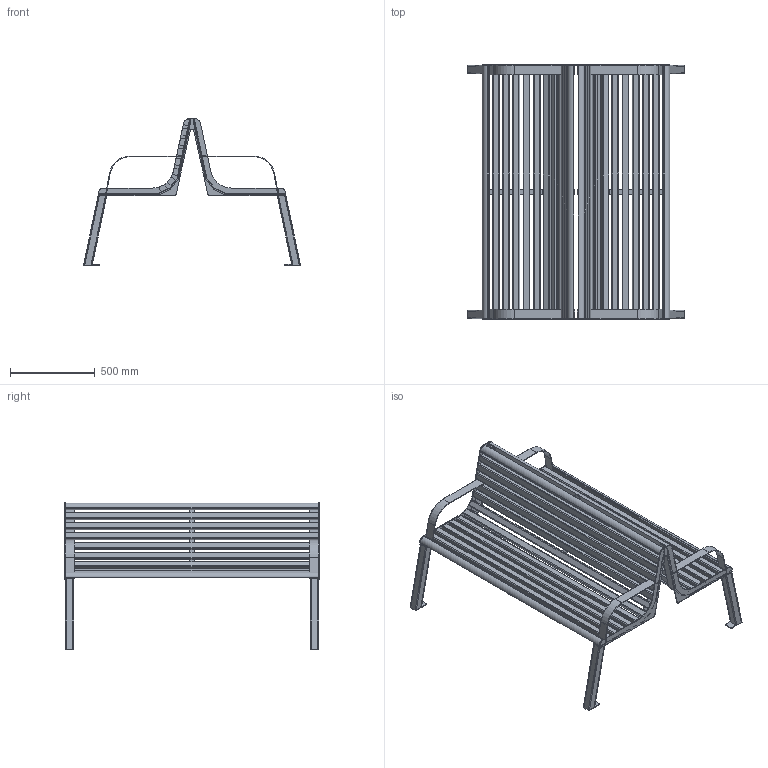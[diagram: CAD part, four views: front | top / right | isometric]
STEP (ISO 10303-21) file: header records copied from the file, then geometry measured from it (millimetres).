
FILE_DESCRIPTION(/* description */ (''),/* implementation_level */ '2;1');
FILE_NAME(/* name */ 'LVI293.00a SIMPLE.step',/* time_stamp */ '2023-10-16T09:47:25+02:00',/* author */ (''),/* organization */ (''),/* preprocessor_version */ 'ST-DEVELOPER v20',/* originating_system */ 'Autodesk Translation Framework v12.14.0.127',/* authorisation */ '');
FILE_SCHEMA (('AUTOMOTIVE_DESIGN { 1 0 10303 214 3 1 1 }'));
Length unit declared in the file: millimetre
Products named in the file (19): LVI293.00a; LVI293.01.01; LVI293.01.01.03; LVI293.01.01.05; LVI293.01.01.06; LVI293.01.01.07; LVI293.01.01.08; LVI293.01.01.01; LVI293.01.01.04; LVI293.01.02; LVI293.01.02.03; LVI293.01.02.05; LVI293.01.02.04; LVI293.01.03; LVI293.01.03.01; LVI293.01.03.03; LVI293.01.03.02; LVI293.01.02.02; LVI293.01.02.01
Assembly tree (35 placements, depth 3):
  LVI293.00a
    LVI293.01.01  x2
      LVI293.01.01.01
      LVI293.01.01.03
      LVI293.01.01.04
      LVI293.01.01.05
      LVI293.01.01.06
      LVI293.01.01.07
      LVI293.01.01.08
    LVI293.01.02  x2
      LVI293.01.02.01
      LVI293.01.02.02
      LVI293.01.02.03
      LVI293.01.02.05
      LVI293.01.02.04
    LVI293.01.03  x2
      LVI293.01.03.01
      LVI293.01.03.03
      LVI293.01.03.02
      LVI293.01.02.01
      LVI293.01.02.02
Bounding box: 1278.48 x 1500 x 861.24 mm (x, y, z)
Volume: 52159691.5 mm3; surface area: 7854729.8 mm2
Topology: 58 solids, 58 shells, 944 faces, 2260 edges, 1432 vertices
Faces by surface type: plane 658, cylinder 286
Entity records: 10791 total; most frequent: DIRECTION 1865, CARTESIAN_POINT 1774, ORIENTED_EDGE 1690, EDGE_CURVE 845, LINE 631, VECTOR 631, AXIS2_PLACEMENT_3D 617, VERTEX_POINT 526
